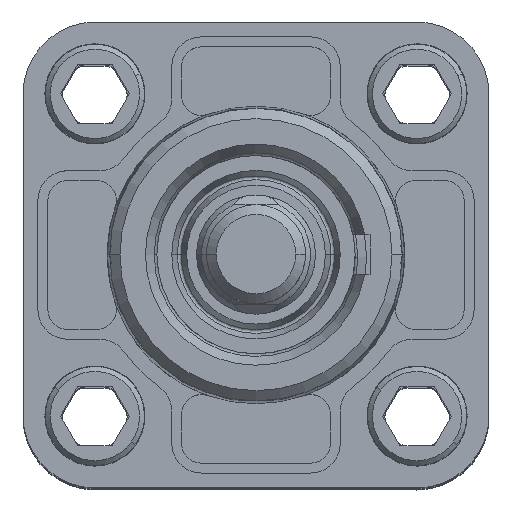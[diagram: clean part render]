
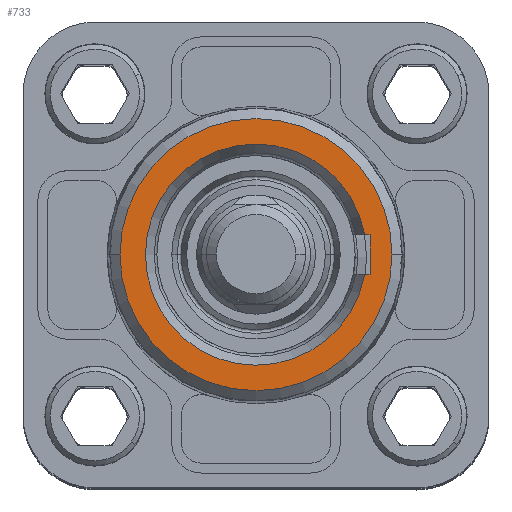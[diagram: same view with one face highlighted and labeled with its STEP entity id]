
A CAD part, top view. The second image highlights one B-rep face of the part: STEP entity #733.
In plain terms, the highlighted planar face has unit normal (0, 0, 1).
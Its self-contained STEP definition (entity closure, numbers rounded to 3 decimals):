
#733 = ADVANCED_FACE ( 'NONE', ( #7667, #10598 ), #1444, .T. ) ;
#747 = AXIS2_PLACEMENT_3D ( 'NONE', #10974, #4359, #12069 ) ;
#898 = CIRCLE ( 'NONE', #8149, 13.72 ) ;
#968 = DIRECTION ( 'NONE',  ( 1., 0., 0. ) ) ;
#985 = DIRECTION ( 'NONE',  ( 0., 0., 1. ) ) ;
#1225 = CARTESIAN_POINT ( 'NONE',  ( 23.5, -23.5, 54. ) ) ;
#1385 = CARTESIAN_POINT ( 'NONE',  ( 11.5, -2., 54. ) ) ;
#1444 = PLANE ( 'NONE',  #8106 ) ;
#1581 = VERTEX_POINT ( 'NONE', #8954 ) ;
#1594 = EDGE_CURVE ( 'NONE', #1581, #14240, #14030, .T. ) ;
#2038 = DIRECTION ( 'NONE',  ( 0., 0., 1. ) ) ;
#2504 = CARTESIAN_POINT ( 'NONE',  ( 13.72, 0., 54. ) ) ;
#3207 = CARTESIAN_POINT ( 'NONE',  ( 10.974, -2., 54. ) ) ;
#3405 = CARTESIAN_POINT ( 'NONE',  ( 11.5, 2., 54. ) ) ;
#3858 = DIRECTION ( 'NONE',  ( 1., 0., 0. ) ) ;
#4173 = VERTEX_POINT ( 'NONE', #3207 ) ;
#4301 = ORIENTED_EDGE ( 'NONE', *, *, #6155, .T. ) ;
#4359 = DIRECTION ( 'NONE',  ( 0., 0., -1. ) ) ;
#4397 = CARTESIAN_POINT ( 'NONE',  ( 10.974, 2., 54. ) ) ;
#4401 = VECTOR ( 'NONE', #3858, 1000. ) ;
#4434 = EDGE_CURVE ( 'NONE', #4173, #14240, #9418, .T. ) ;
#4495 = EDGE_LOOP ( 'NONE', ( #5602, #4301 ) ) ;
#4995 = ORIENTED_EDGE ( 'NONE', *, *, #11225, .F. ) ;
#5086 = DIRECTION ( 'NONE',  ( 0., 0., 1. ) ) ;
#5412 = CIRCLE ( 'NONE', #13866, 13.72 ) ;
#5598 = DIRECTION ( 'NONE',  ( 0., 1., 0. ) ) ;
#5602 = ORIENTED_EDGE ( 'NONE', *, *, #6605, .T. ) ;
#5754 = EDGE_CURVE ( 'NONE', #8960, #1581, #10931, .T. ) ;
#6155 = EDGE_CURVE ( 'NONE', #7191, #12004, #5412, .T. ) ;
#6605 = EDGE_CURVE ( 'NONE', #12004, #7191, #898, .T. ) ;
#6943 = ORIENTED_EDGE ( 'NONE', *, *, #5754, .F. ) ;
#7191 = VERTEX_POINT ( 'NONE', #2504 ) ;
#7352 = LINE ( 'NONE', #11574, #4401 ) ;
#7667 = FACE_BOUND ( 'NONE', #12260, .T. ) ;
#8015 = VECTOR ( 'NONE', #5598, 1000. ) ;
#8029 = CARTESIAN_POINT ( 'NONE',  ( 11.5, 2., 54. ) ) ;
#8106 = AXIS2_PLACEMENT_3D ( 'NONE', #1225, #985, #968 ) ;
#8149 = AXIS2_PLACEMENT_3D ( 'NONE', #11676, #5086, #12774 ) ;
#8234 = DIRECTION ( 'NONE',  ( -1., 0., 0. ) ) ;
#8674 = CARTESIAN_POINT ( 'NONE',  ( 0., 0., 54. ) ) ;
#8954 = CARTESIAN_POINT ( 'NONE',  ( 11.5, 2., 54. ) ) ;
#8960 = VERTEX_POINT ( 'NONE', #1385 ) ;
#9418 = CIRCLE ( 'NONE', #747, 11.155 ) ;
#9777 = DIRECTION ( 'NONE',  ( 1., 0., 0. ) ) ;
#10076 = CARTESIAN_POINT ( 'NONE',  ( -13.72, 0., 54. ) ) ;
#10422 = VECTOR ( 'NONE', #8234, 1000. ) ;
#10598 = FACE_OUTER_BOUND ( 'NONE', #4495, .T. ) ;
#10931 = LINE ( 'NONE', #3405, #8015 ) ;
#10974 = CARTESIAN_POINT ( 'NONE',  ( 0., 0., 54. ) ) ;
#11225 = EDGE_CURVE ( 'NONE', #4173, #8960, #7352, .T. ) ;
#11574 = CARTESIAN_POINT ( 'NONE',  ( 11.5, -2., 54. ) ) ;
#11676 = CARTESIAN_POINT ( 'NONE',  ( 0., 0., 54. ) ) ;
#11702 = ORIENTED_EDGE ( 'NONE', *, *, #4434, .T. ) ;
#12004 = VERTEX_POINT ( 'NONE', #10076 ) ;
#12069 = DIRECTION ( 'NONE',  ( -1., 0., 0. ) ) ;
#12260 = EDGE_LOOP ( 'NONE', ( #11702, #13054, #6943, #4995 ) ) ;
#12774 = DIRECTION ( 'NONE',  ( 1., 0., 0. ) ) ;
#13054 = ORIENTED_EDGE ( 'NONE', *, *, #1594, .F. ) ;
#13866 = AXIS2_PLACEMENT_3D ( 'NONE', #8674, #2038, #9777 ) ;
#14030 = LINE ( 'NONE', #8029, #10422 ) ;
#14240 = VERTEX_POINT ( 'NONE', #4397 ) ;
